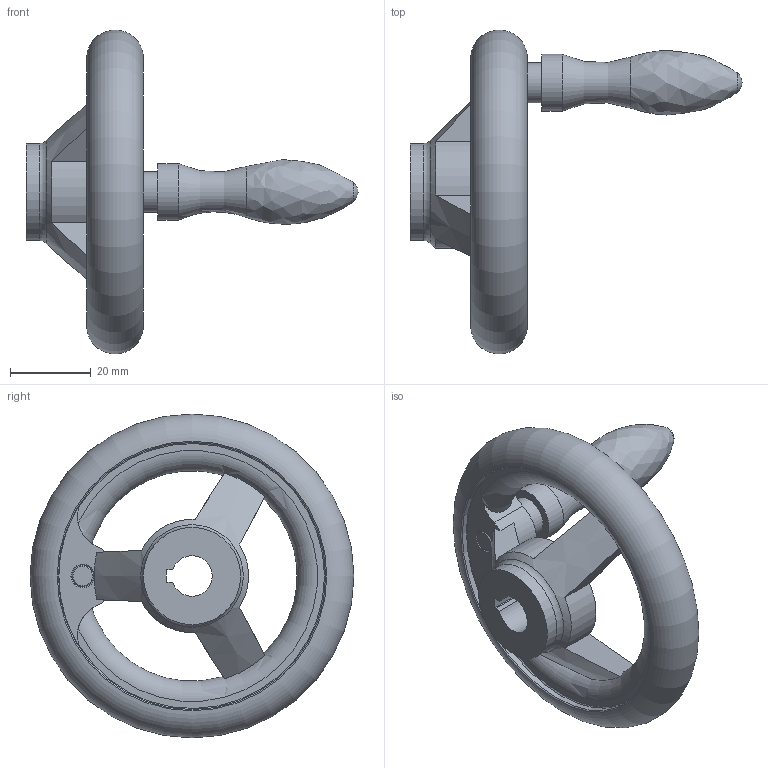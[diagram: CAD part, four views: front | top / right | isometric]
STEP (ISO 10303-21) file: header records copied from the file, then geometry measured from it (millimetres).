
FILE_DESCRIPTION( ( 'STEP AP203' ), '1' );
FILE_NAME( 'C:/Temp/Ganter_Step_05_03_2020/data/1_3/din_950/din_950_k/din_950_k_d/Handwheel DIN 950-GG-80-K10-D.stp', '2020-03-05T10:30:47', ( 'License CC BY-ND 4.0' ), ( 'CADENAS' ), ' ', 'PARTsolutions', ' ' );
FILE_SCHEMA( ( 'CONFIG_CONTROL_DESIGN' ) );
Length unit declared in the file: millimetre
Products named in the file (1): _Handwheel DIN 950-GG-80-K10-D
Bounding box: 82 x 79.97 x 79.97 mm (x, y, z)
Volume: 46571.1 mm3; surface area: 15962 mm2
Topology: 1 solids, 1 shells, 50 faces, 141 edges, 90 vertices
Faces by surface type: plane 18, cylinder 15, torus 11, cone 4, bspline 1, sphere 1
Full cylindrical faces by diameter (mm): 10 x1, 14 x1, 24 x2, 66 x2
Entity records: 1785 total; most frequent: CARTESIAN_POINT 570, DIRECTION 244, ORIENTED_EDGE 226, EDGE_CURVE 113, AXIS2_PLACEMENT_3D 110, VERTEX_POINT 84, EDGE_LOOP 75, FACE_OUTER_BOUND 65
